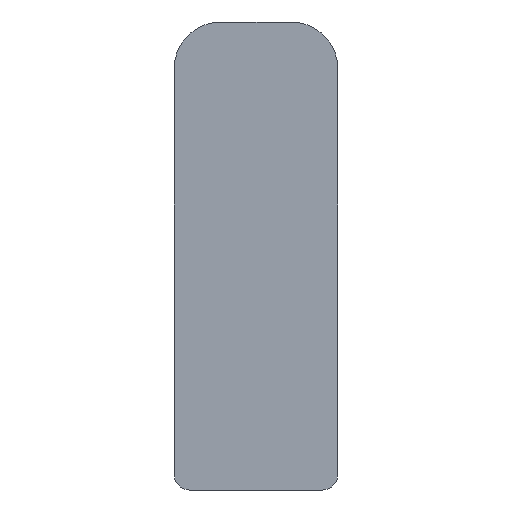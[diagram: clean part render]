
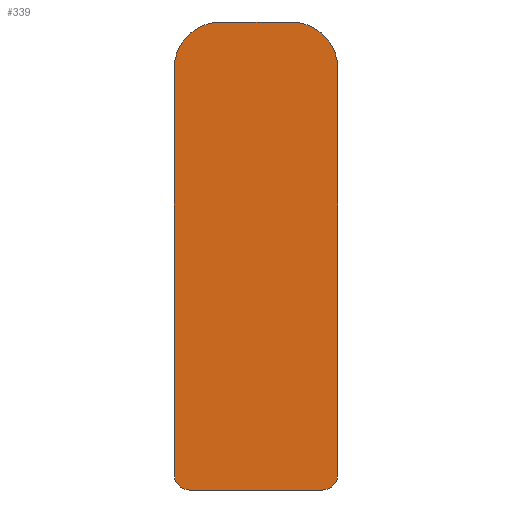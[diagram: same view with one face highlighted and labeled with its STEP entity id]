
A CAD part, left-side view. The second image highlights one B-rep face of the part: STEP entity #339.
In plain terms, the highlighted planar face has unit normal (-1, 0, 0).
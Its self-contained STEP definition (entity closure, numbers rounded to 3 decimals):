
#4 = LINE ( 'NONE', #326, #55 ) ;
#11 = CIRCLE ( 'NONE', #79, 3. ) ;
#17 = LINE ( 'NONE', #306, #29 ) ;
#18 = FACE_OUTER_BOUND ( 'NONE', #137, .T. ) ;
#29 = VECTOR ( 'NONE', #304, 1000. ) ;
#38 = VECTOR ( 'NONE', #271, 1000. ) ;
#39 = LINE ( 'NONE', #272, #38 ) ;
#41 = CIRCLE ( 'NONE', #75, 1. ) ;
#51 = CIRCLE ( 'NONE', #77, 1. ) ;
#55 = VECTOR ( 'NONE', #325, 1000. ) ;
#65 = AXIS2_PLACEMENT_3D ( 'NONE', #215, #214, #213 ) ;
#75 = AXIS2_PLACEMENT_3D ( 'NONE', #279, #278, #276 ) ;
#77 = AXIS2_PLACEMENT_3D ( 'NONE', #296, #295, #293 ) ;
#79 = AXIS2_PLACEMENT_3D ( 'NONE', #316, #315, #313 ) ;
#81 = AXIS2_PLACEMENT_3D ( 'NONE', #221, #217, #212 ) ;
#83 = EDGE_CURVE ( 'NONE', #301, #311, #110, .T. ) ;
#86 = EDGE_CURVE ( 'NONE', #288, #308, #181, .T. ) ;
#90 = EDGE_CURVE ( 'NONE', #308, #323, #4, .T. ) ;
#93 = EDGE_CURVE ( 'NONE', #323, #280, #11, .T. ) ;
#96 = EDGE_CURVE ( 'NONE', #280, #327, #17, .T. ) ;
#99 = EDGE_CURVE ( 'NONE', #327, #301, #51, .T. ) ;
#105 = EDGE_CURVE ( 'NONE', #311, #291, #41, .T. ) ;
#107 = EDGE_CURVE ( 'NONE', #291, #288, #39, .T. ) ;
#109 = VECTOR ( 'NONE', #274, 1000. ) ;
#110 = LINE ( 'NONE', #277, #109 ) ;
#137 = EDGE_LOOP ( 'NONE', ( #164, #165, #163, #166, #167, #168, #169, #170 ) ) ;
#163 = ORIENTED_EDGE ( 'NONE', *, *, #93, .T. ) ;
#164 = ORIENTED_EDGE ( 'NONE', *, *, #86, .T. ) ;
#165 = ORIENTED_EDGE ( 'NONE', *, *, #90, .T. ) ;
#166 = ORIENTED_EDGE ( 'NONE', *, *, #96, .T. ) ;
#167 = ORIENTED_EDGE ( 'NONE', *, *, #99, .T. ) ;
#168 = ORIENTED_EDGE ( 'NONE', *, *, #83, .T. ) ;
#169 = ORIENTED_EDGE ( 'NONE', *, *, #105, .T. ) ;
#170 = ORIENTED_EDGE ( 'NONE', *, *, #107, .T. ) ;
#181 = CIRCLE ( 'NONE', #81, 3. ) ;
#212 = DIRECTION ( 'NONE',  ( 0., 0., 1. ) ) ;
#213 = DIRECTION ( 'NONE',  ( 0., 0., 1. ) ) ;
#214 = DIRECTION ( 'NONE',  ( -1., 0., 0. ) ) ;
#215 = CARTESIAN_POINT ( 'NONE',  ( -453.25, -2.25, 27. ) ) ;
#216 = PLANE ( 'NONE',  #65 ) ;
#217 = DIRECTION ( 'NONE',  ( -1., 0., 0. ) ) ;
#221 = CARTESIAN_POINT ( 'NONE',  ( -453.25, -2.25, 27. ) ) ;
#248 = CARTESIAN_POINT ( 'NONE',  ( -453.25, 5.25, 1. ) ) ;
#250 = CARTESIAN_POINT ( 'NONE',  ( -453.25, 2.25, 30. ) ) ;
#253 = CARTESIAN_POINT ( 'NONE',  ( -453.25, -4.25, 0. ) ) ;
#254 = CARTESIAN_POINT ( 'NONE',  ( -453.25, -2.25, 30. ) ) ;
#256 = CARTESIAN_POINT ( 'NONE',  ( -453.25, 4.25, 0. ) ) ;
#259 = CARTESIAN_POINT ( 'NONE',  ( -453.25, -5.25, 1. ) ) ;
#260 = CARTESIAN_POINT ( 'NONE',  ( -453.25, -5.25, 27. ) ) ;
#262 = CARTESIAN_POINT ( 'NONE',  ( -453.25, 5.25, 27. ) ) ;
#271 = DIRECTION ( 'NONE',  ( 0., 0., 1. ) ) ;
#272 = CARTESIAN_POINT ( 'NONE',  ( -453.25, -5.25, 1. ) ) ;
#274 = DIRECTION ( 'NONE',  ( 0., -1., 0. ) ) ;
#276 = DIRECTION ( 'NONE',  ( 0., 0., -1. ) ) ;
#277 = CARTESIAN_POINT ( 'NONE',  ( -453.25, -4.25, 0. ) ) ;
#278 = DIRECTION ( 'NONE',  ( -1., 0., 0. ) ) ;
#279 = CARTESIAN_POINT ( 'NONE',  ( -453.25, -4.25, 1. ) ) ;
#280 = VERTEX_POINT ( 'NONE', #262 ) ;
#288 = VERTEX_POINT ( 'NONE', #260 ) ;
#291 = VERTEX_POINT ( 'NONE', #259 ) ;
#293 = DIRECTION ( 'NONE',  ( 0., 0., -1. ) ) ;
#295 = DIRECTION ( 'NONE',  ( -1., 0., 0. ) ) ;
#296 = CARTESIAN_POINT ( 'NONE',  ( -453.25, 4.25, 1. ) ) ;
#301 = VERTEX_POINT ( 'NONE', #256 ) ;
#304 = DIRECTION ( 'NONE',  ( 0., 0., -1. ) ) ;
#306 = CARTESIAN_POINT ( 'NONE',  ( -453.25, 5.25, 1. ) ) ;
#308 = VERTEX_POINT ( 'NONE', #254 ) ;
#311 = VERTEX_POINT ( 'NONE', #253 ) ;
#313 = DIRECTION ( 'NONE',  ( 0., 0., -1. ) ) ;
#315 = DIRECTION ( 'NONE',  ( -1., 0., 0. ) ) ;
#316 = CARTESIAN_POINT ( 'NONE',  ( -453.25, 2.25, 27. ) ) ;
#323 = VERTEX_POINT ( 'NONE', #250 ) ;
#325 = DIRECTION ( 'NONE',  ( 0., 1., 0. ) ) ;
#326 = CARTESIAN_POINT ( 'NONE',  ( -453.25, -2.25, 30. ) ) ;
#327 = VERTEX_POINT ( 'NONE', #248 ) ;
#339 = ADVANCED_FACE ( 'NONE', ( #18 ), #216, .T. ) ;
